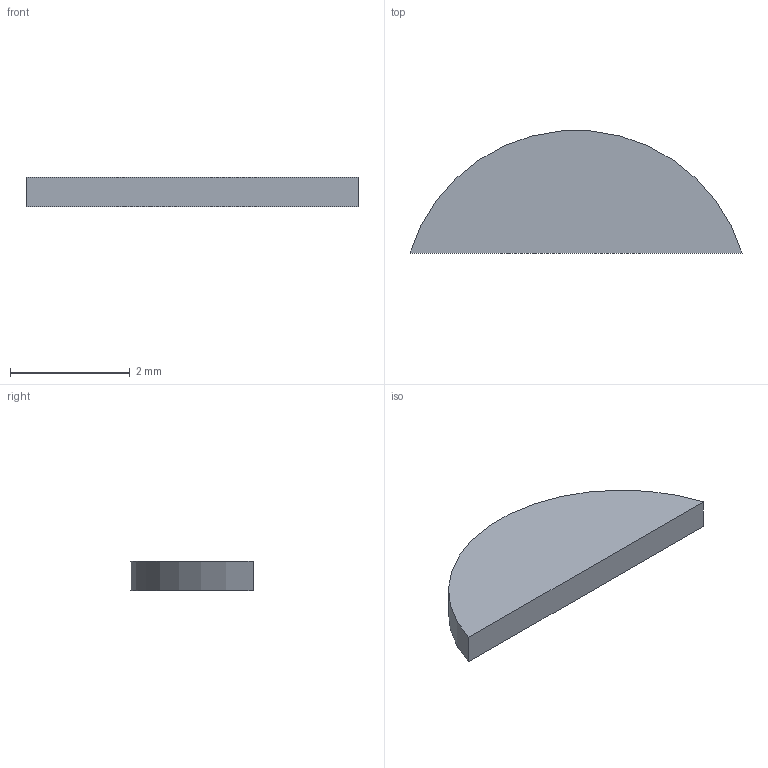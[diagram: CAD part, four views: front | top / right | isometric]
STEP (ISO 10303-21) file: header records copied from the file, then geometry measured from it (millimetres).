
FILE_DESCRIPTION(('Open CASCADE Model'),'2;1');
FILE_NAME('LED_soft_pad_reference','2026-09-21T22:33:40',('Author'),( 'Open CASCADE'),'Open CASCADE STEP processor 7.9','build123d', 'Unknown');
FILE_SCHEMA(('AUTOMOTIVE_DESIGN { 1 0 10303 214 1 1 1 1 }'));
Length unit declared in the file: millimetre
Products named in the file (2): LED_soft_pad_reference
Assembly tree (1 placements, depth 2):
  LED_soft_pad_reference
    LED_soft_pad_reference
Bounding box: 5.55 x 2.04 x 0.5 mm (x, y, z)
Volume: 4.2 mm3; surface area: 23.2 mm2
Topology: 1 solids, 1 shells, 4 faces, 6 edges, 4 vertices
Faces by surface type: plane 3, cylinder 1
Entity records: 144 total; most frequent: DIRECTION 20, CARTESIAN_POINT 16, ORIENTED_EDGE 12, AXIS2_PLACEMENT_3D 8, EDGE_CURVE 6, SHAPE_DEFINITION_REPRESENTATION 4, ADVANCED_FACE 4, FACE_BOUND 4
